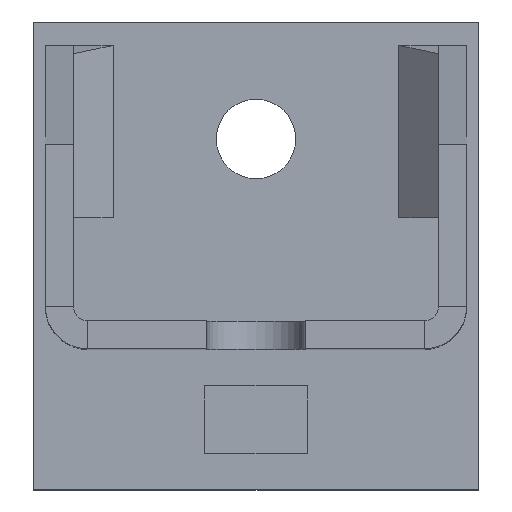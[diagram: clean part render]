
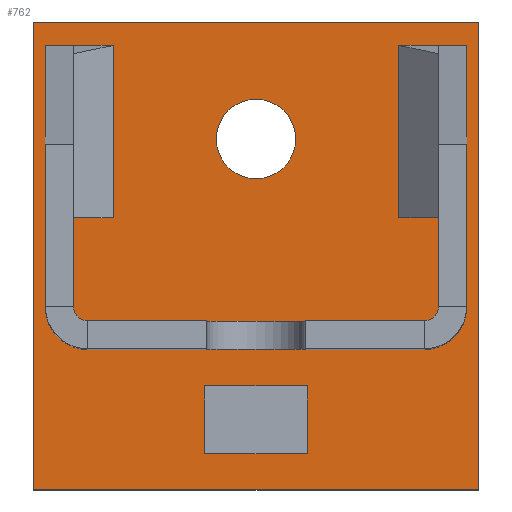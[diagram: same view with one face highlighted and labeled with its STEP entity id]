
A CAD part, top view. The second image highlights one B-rep face of the part: STEP entity #762.
In plain terms, the highlighted planar face has unit normal (0, 0, 1).
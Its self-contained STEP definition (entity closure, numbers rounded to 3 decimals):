
#24=FACE_BOUND('',#132,.T.);
#25=FACE_BOUND('',#133,.T.);
#27=CIRCLE('',#812,8.5);
#82=FACE_OUTER_BOUND('',#131,.T.);
#131=EDGE_LOOP('',(#574,#575,#576,#577));
#132=EDGE_LOOP('',(#578,#579,#580,#581));
#133=EDGE_LOOP('',(#582));
#180=LINE('',#1128,#268);
#184=LINE('',#1136,#272);
#187=LINE('',#1142,#275);
#190=LINE('',#1147,#278);
#192=LINE('',#1158,#280);
#196=LINE('',#1166,#284);
#199=LINE('',#1172,#287);
#202=LINE('',#1177,#290);
#268=VECTOR('',#905,14.5);
#272=VECTOR('',#911,22.);
#275=VECTOR('',#916,14.5);
#278=VECTOR('',#921,22.);
#280=VECTOR('',#933,100.);
#284=VECTOR('',#939,95.);
#287=VECTOR('',#944,100.);
#290=VECTOR('',#949,95.);
#350=VERTEX_POINT('',#1126);
#351=VERTEX_POINT('',#1127);
#354=VERTEX_POINT('',#1135);
#356=VERTEX_POINT('',#1141);
#358=VERTEX_POINT('',#1151);
#360=VERTEX_POINT('',#1156);
#361=VERTEX_POINT('',#1157);
#364=VERTEX_POINT('',#1165);
#366=VERTEX_POINT('',#1171);
#418=EDGE_CURVE('',#350,#351,#180,.T.);
#422=EDGE_CURVE('',#354,#350,#184,.T.);
#425=EDGE_CURVE('',#356,#354,#187,.T.);
#428=EDGE_CURVE('',#351,#356,#190,.T.);
#430=EDGE_CURVE('',#358,#358,#27,.T.);
#432=EDGE_CURVE('',#360,#361,#192,.T.);
#436=EDGE_CURVE('',#361,#364,#196,.T.);
#439=EDGE_CURVE('',#364,#366,#199,.T.);
#442=EDGE_CURVE('',#366,#360,#202,.T.);
#574=ORIENTED_EDGE('',*,*,#432,.F.);
#575=ORIENTED_EDGE('',*,*,#442,.F.);
#576=ORIENTED_EDGE('',*,*,#439,.F.);
#577=ORIENTED_EDGE('',*,*,#436,.F.);
#578=ORIENTED_EDGE('',*,*,#418,.T.);
#579=ORIENTED_EDGE('',*,*,#428,.T.);
#580=ORIENTED_EDGE('',*,*,#425,.T.);
#581=ORIENTED_EDGE('',*,*,#422,.T.);
#582=ORIENTED_EDGE('',*,*,#430,.T.);
#719=PLANE('',#818);
#762=ADVANCED_FACE('',(#82,#24,#25),#719,.T.);
#812=AXIS2_PLACEMENT_3D('',#1152,#927,#928);
#818=AXIS2_PLACEMENT_3D('',#1179,#951,#952);
#905=DIRECTION('',(0.,-1.,0.));
#911=DIRECTION('',(1.,0.,0.));
#916=DIRECTION('',(0.,1.,0.));
#921=DIRECTION('',(-1.,0.,0.));
#927=DIRECTION('center_axis',(0.,0.,-1.));
#928=DIRECTION('ref_axis',(-1.,0.,0.));
#933=DIRECTION('',(0.,-1.,0.));
#939=DIRECTION('',(-1.,0.,0.));
#944=DIRECTION('',(0.,1.,0.));
#949=DIRECTION('',(1.,0.,0.));
#951=DIRECTION('center_axis',(0.,0.,1.));
#952=DIRECTION('ref_axis',(1.,0.,0.));
#1126=CARTESIAN_POINT('',(11.,-52.75,6.));
#1127=CARTESIAN_POINT('',(11.,-67.25,6.));
#1128=CARTESIAN_POINT('',(11.,-38.875,6.));
#1135=CARTESIAN_POINT('',(-11.,-52.75,6.));
#1136=CARTESIAN_POINT('',(-5.5,-52.75,6.));
#1141=CARTESIAN_POINT('',(-11.,-67.25,6.));
#1142=CARTESIAN_POINT('',(-11.,-46.125,6.));
#1147=CARTESIAN_POINT('',(5.5,-67.25,6.));
#1151=CARTESIAN_POINT('',(8.5,0.,6.));
#1152=CARTESIAN_POINT('Origin',(0.,0.,6.));
#1156=CARTESIAN_POINT('',(47.5,25.,6.));
#1157=CARTESIAN_POINT('',(47.5,-75.,6.));
#1158=CARTESIAN_POINT('',(47.5,25.,6.));
#1165=CARTESIAN_POINT('',(-47.5,-75.,6.));
#1166=CARTESIAN_POINT('',(47.5,-75.,6.));
#1171=CARTESIAN_POINT('',(-47.5,25.,6.));
#1172=CARTESIAN_POINT('',(-47.5,-75.,6.));
#1177=CARTESIAN_POINT('',(-47.5,25.,6.));
#1179=CARTESIAN_POINT('Origin',(0.,-25.,6.));
